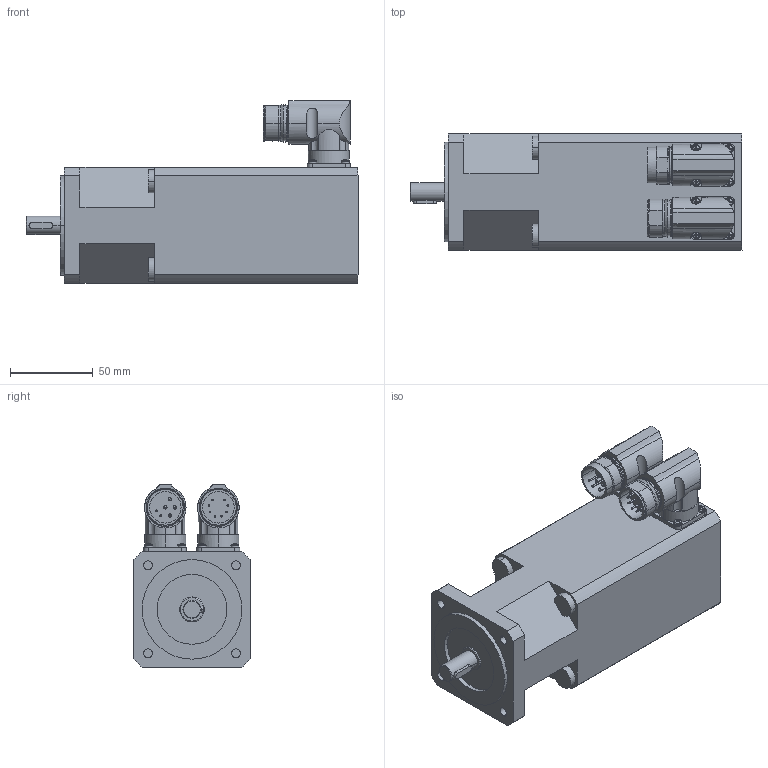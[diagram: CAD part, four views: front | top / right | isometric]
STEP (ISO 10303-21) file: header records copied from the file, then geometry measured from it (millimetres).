
FILE_DESCRIPTION((''),'2;1');
FILE_NAME('ACG0170.stp','2005-05-19T13:42:46',(''),(''),'Mechanical Desktop 2005','Mechanical Desktop 2005',', , ');
FILE_SCHEMA(('AUTOMOTIVE_DESIGN { 1 2 10303 214 0 1 1 1 }'));
Length unit declared in the file: millimetre
Products named in the file (2): ACG0170; CARCASA
Assembly tree (1 placements, depth 2):
  ACG0170
    CARCASA
Bounding box: 200 x 70 x 110.22 mm (x, y, z)
Volume: 873074.7 mm3; surface area: 73160.6 mm2
Topology: 1 solids, 1 shells, 620 faces, 1507 edges, 894 vertices
Faces by surface type: plane 290, cylinder 192, cone 78, sphere 32, torus 24, bspline 4
Entity records: 19214 total; most frequent: CARTESIAN_POINT 4895, DIRECTION 3119, ORIENTED_EDGE 2926, EDGE_CURVE 1463, AXIS2_PLACEMENT_3D 1242, VERTEX_POINT 894, EDGE_LOOP 677, VECTOR 635
